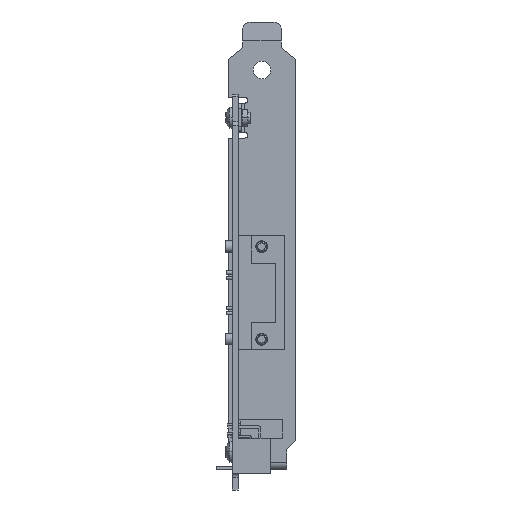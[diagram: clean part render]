
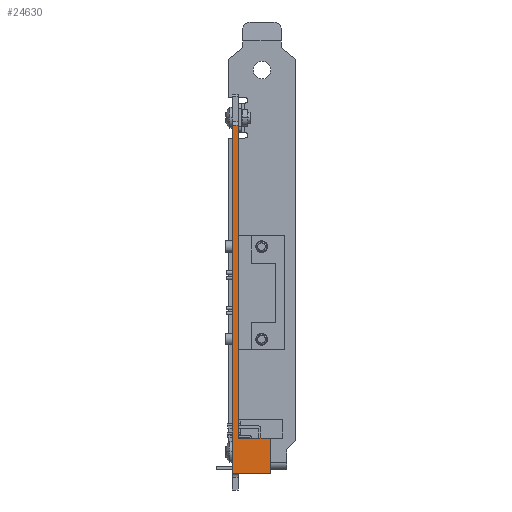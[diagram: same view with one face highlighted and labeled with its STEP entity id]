
A CAD part, front view. The second image highlights one B-rep face of the part: STEP entity #24630.
In plain terms, the highlighted planar face has unit normal (0, -1, 0).
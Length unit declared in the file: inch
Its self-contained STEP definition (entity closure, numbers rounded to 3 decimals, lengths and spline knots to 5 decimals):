
#418=DIRECTION('',(0.,0.,-1.));
#419=VECTOR('',#418,3.325);
#420=CARTESIAN_POINT('',(0.062,-6.305,-0.135));
#421=LINE('',#420,#419);
#4611=DIRECTION('',(0.,0.,-1.));
#4612=VECTOR('',#4611,3.695);
#4613=CARTESIAN_POINT('',(0.,-6.305,-0.135));
#4614=LINE('',#4613,#4612);
#5781=DIRECTION('',(-1.,0.,0.));
#5782=VECTOR('',#5781,0.402);
#5783=CARTESIAN_POINT('',(0.402,-6.305,-3.83));
#5784=LINE('',#5783,#5782);
#5785=DIRECTION('',(1.,0.,0.));
#5786=VECTOR('',#5785,0.062);
#5787=CARTESIAN_POINT('',(0.,-6.305,-0.135));
#5788=LINE('',#5787,#5786);
#5797=DIRECTION('',(1.,0.,0.));
#5798=VECTOR('',#5797,0.34);
#5799=CARTESIAN_POINT('',(0.062,-6.305,-3.46));
#5800=LINE('',#5799,#5798);
#6361=DIRECTION('',(0.,0.,1.));
#6362=VECTOR('',#6361,0.37);
#6363=CARTESIAN_POINT('',(0.402,-6.305,-3.83));
#6364=LINE('',#6363,#6362);
#14105=CARTESIAN_POINT('',(0.,-6.305,-0.135));
#14106=VERTEX_POINT('',#14105);
#14125=CARTESIAN_POINT('',(0.062,-6.305,-0.135));
#14126=VERTEX_POINT('',#14125);
#14211=CARTESIAN_POINT('',(0.,-6.305,-3.83));
#14212=VERTEX_POINT('',#14211);
#14545=CARTESIAN_POINT('',(0.402,-6.305,-3.46));
#14547=VERTEX_POINT('',#14545);
#14549=CARTESIAN_POINT('',(0.402,-6.305,-3.83));
#14550=VERTEX_POINT('',#14549);
#16425=CARTESIAN_POINT('',(0.062,-6.305,-3.46));
#16427=VERTEX_POINT('',#16425);
#24614=CARTESIAN_POINT('',(0.,-6.305,-0.135));
#24615=DIRECTION('',(0.,-1.,0.));
#24616=DIRECTION('',(0.,0.,-1.));
#24617=AXIS2_PLACEMENT_3D('',#24614,#24615,#24616);
#24618=PLANE('',#24617);
#24619=ORIENTED_EDGE('',*,*,#18833,.T.);
#24621=ORIENTED_EDGE('',*,*,#24620,.T.);
#24623=ORIENTED_EDGE('',*,*,#24622,.F.);
#24624=ORIENTED_EDGE('',*,*,#24585,.T.);
#24625=ORIENTED_EDGE('',*,*,#23889,.F.);
#24627=ORIENTED_EDGE('',*,*,#24626,.T.);
#24628=EDGE_LOOP('',(#24619,#24621,#24623,#24624,#24625,#24627));
#24629=FACE_OUTER_BOUND('',#24628,.F.);
#24630=ADVANCED_FACE('',(#24629),#24618,.T.);
#18833=EDGE_CURVE('',#14126,#16427,#421,.T.);
#23889=EDGE_CURVE('',#14106,#14212,#4614,.T.);
#24585=EDGE_CURVE('',#14550,#14212,#5784,.T.);
#24620=EDGE_CURVE('',#16427,#14547,#5800,.T.);
#24622=EDGE_CURVE('',#14550,#14547,#6364,.T.);
#24626=EDGE_CURVE('',#14106,#14126,#5788,.T.);
